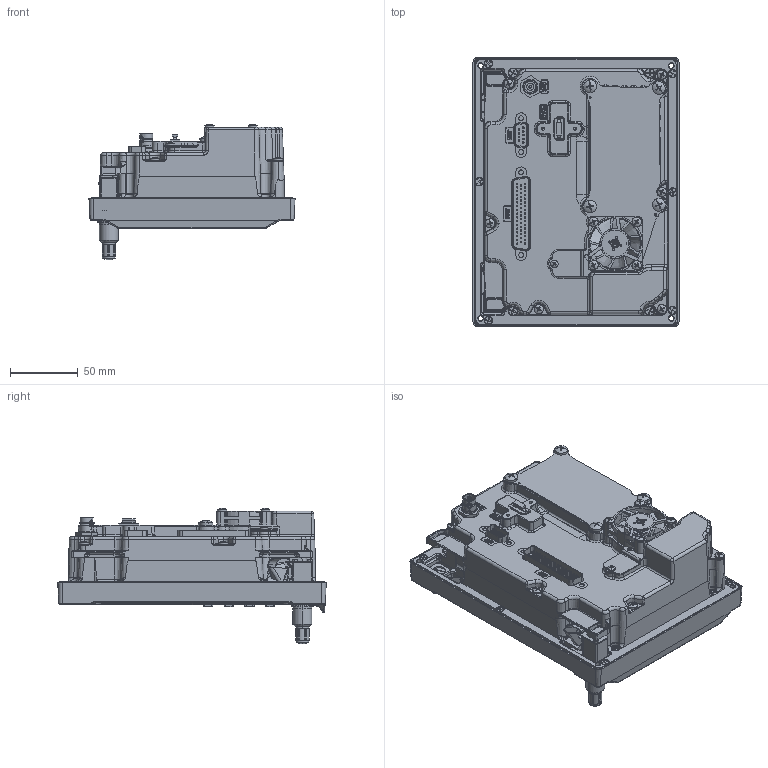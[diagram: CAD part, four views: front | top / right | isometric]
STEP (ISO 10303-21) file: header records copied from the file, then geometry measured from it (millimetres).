
FILE_DESCRIPTION (( 'STEP AP203' ), '1' );
FILE_NAME ('GDU80P_011-05800-(0X)_UO_rev2.STEP', '2026-06-03T19:50:15', ( '' ), ( '' ), 'SwSTEP 2.0', 'SolidWorks 2023', '' );
FILE_SCHEMA (( 'CONFIG_CONTROL_DESIGN' ));
Products named in the file (1): GDU80P_011-05800-(0X)_UO_rev2
Bounding box: 152.4 x 198.63 x 100.25 mm (x, y, z)
Volume: 1343559.7 mm3; surface area: 150364.5 mm2
Topology: 1 solids, 29 shells, 5596 faces, 14313 edges, 8889 vertices
Faces by surface type: plane 2158, cylinder 1441, bspline 1019, cone 414, torus 403, sphere 161
Entity records: 201139 total; most frequent: CARTESIAN_POINT 73335, ORIENTED_EDGE 28502, DIRECTION 24846, EDGE_CURVE 14251, AXIS2_PLACEMENT_3D 9209, VERTEX_POINT 8880, VECTOR 6428, LINE 6428
